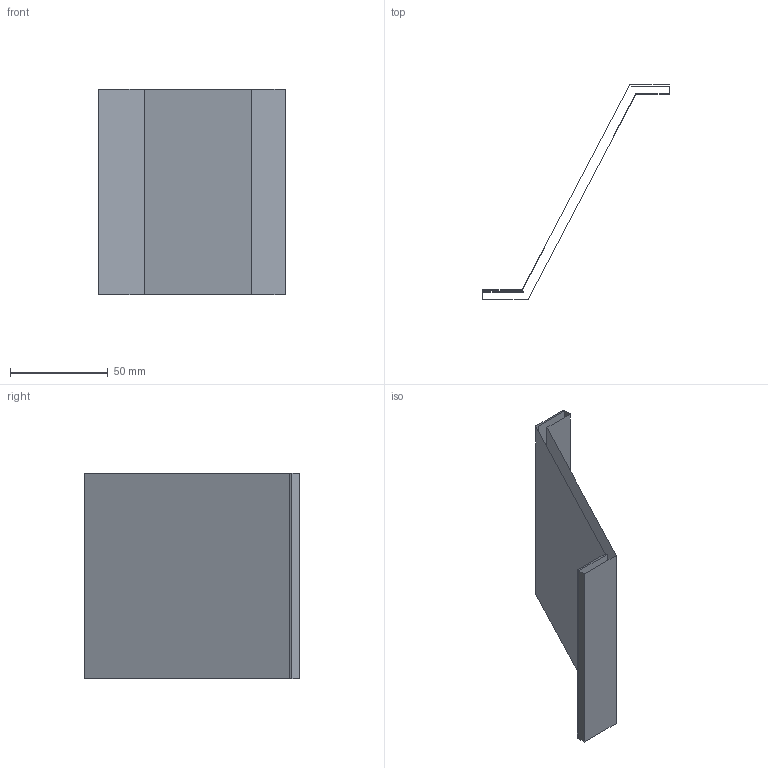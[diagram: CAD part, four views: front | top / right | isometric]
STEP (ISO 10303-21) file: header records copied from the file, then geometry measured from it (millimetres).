
FILE_DESCRIPTION(('CATIA V5 STEP Exchange'),'2;1');
FILE_NAME('C:\_Andres\UNIVERSIDAD\IQS\ASIGNATURAS\DAO\EXF\EXF-16172c\2inicio\Bosch_Dalmau_Ej06_v5.stp','2017-03-05T21:01:22+00:00',('none'),('none'),'CATIA Version 5-6 Release 2014 SP1 HF18','CATIA V5 STEP AP203','none');
FILE_SCHEMA(('CONFIG_CONTROL_DESIGN'));
Length unit declared in the file: millimetre
Products named in the file (1): Bosch_Dalmau_Ej06_v5
Bounding box: 95 x 110 x 105 mm (x, y, z)
Surface area: 38331.9 mm2 (no closed solid volume)
Topology: 0 solids, 2 shells, 10 faces, 42 edges, 36 vertices
Faces by surface type: plane 10
Entity records: 461 total; most frequent: CARTESIAN_POINT 100, DIRECTION 59, ORIENTED_EDGE 40, VECTOR 39, LINE 39, EDGE_CURVE 32, VERTEX_POINT 24, AXIS2_PLACEMENT_3D 11
